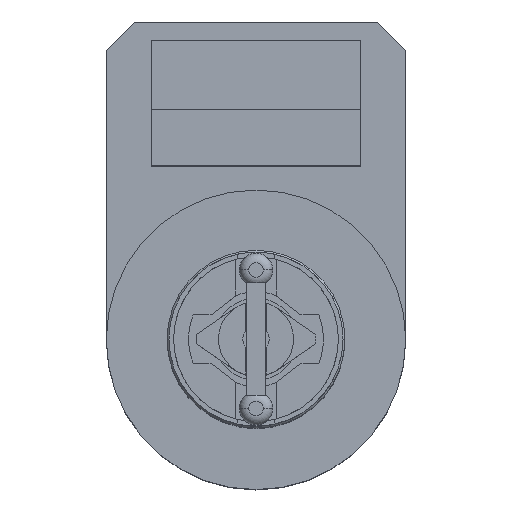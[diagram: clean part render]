
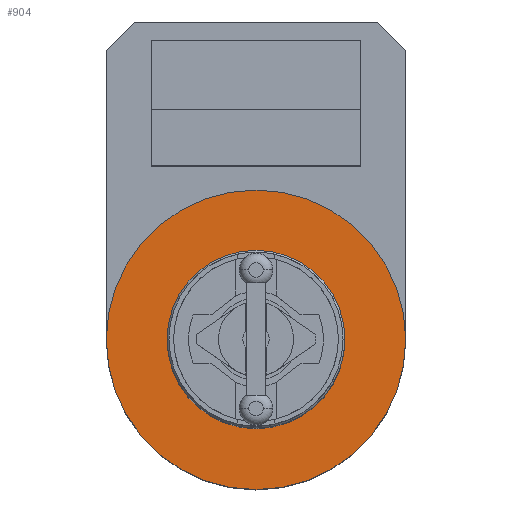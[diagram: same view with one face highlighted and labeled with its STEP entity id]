
A CAD part, top view. The second image highlights one B-rep face of the part: STEP entity #904.
In plain terms, the highlighted planar face has unit normal (0, 0, 1).
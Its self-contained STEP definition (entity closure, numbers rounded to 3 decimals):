
#16 = CARTESIAN_POINT ( 'NONE',  ( 0., 0., 10.9 ) ) ;
#287 = CARTESIAN_POINT ( 'NONE',  ( 0., 0., 10.9 ) ) ;
#370 = CARTESIAN_POINT ( 'NONE',  ( 0., 0., 10.9 ) ) ;
#432 = EDGE_CURVE ( 'NONE', #1455, #608, #2662, .T. ) ;
#521 = AXIS2_PLACEMENT_3D ( 'NONE', #1353, #1087, #1900 ) ;
#577 = DIRECTION ( 'NONE',  ( -1., 0., 0. ) ) ;
#608 = VERTEX_POINT ( 'NONE', #1431 ) ;
#904 = ADVANCED_FACE ( 'NONE', ( #2982, #1881 ), #2773, .F. ) ;
#997 = CARTESIAN_POINT ( 'NONE',  ( 0., 0., 10.9 ) ) ;
#1087 = DIRECTION ( 'NONE',  ( 0., 0., -1. ) ) ;
#1353 = CARTESIAN_POINT ( 'NONE',  ( 0., 8., 10.9 ) ) ;
#1360 = EDGE_CURVE ( 'NONE', #608, #1455, #1903, .T. ) ;
#1431 = CARTESIAN_POINT ( 'NONE',  ( 8., 0., 10.9 ) ) ;
#1455 = VERTEX_POINT ( 'NONE', #1929 ) ;
#1534 = EDGE_LOOP ( 'NONE', ( #3396, #2747 ) ) ;
#1579 = EDGE_CURVE ( 'NONE', #2012, #2140, #1907, .T. ) ;
#1611 = EDGE_CURVE ( 'NONE', #2140, #2012, #2136, .T. ) ;
#1788 = CARTESIAN_POINT ( 'NONE',  ( -4.75, 0., 10.9 ) ) ;
#1831 = EDGE_LOOP ( 'NONE', ( #2752, #2492 ) ) ;
#1881 = FACE_BOUND ( 'NONE', #1831, .T. ) ;
#1900 = DIRECTION ( 'NONE',  ( -1., 0., 0. ) ) ;
#1903 = CIRCLE ( 'NONE', #3197, 8. ) ;
#1907 = CIRCLE ( 'NONE', #2612, 4.75 ) ;
#1918 = DIRECTION ( 'NONE',  ( -1., 0., 0. ) ) ;
#1929 = CARTESIAN_POINT ( 'NONE',  ( -8., 0., 10.9 ) ) ;
#1972 = DIRECTION ( 'NONE',  ( -1., 0., 0. ) ) ;
#2012 = VERTEX_POINT ( 'NONE', #1788 ) ;
#2116 = DIRECTION ( 'NONE',  ( -1., 0., 0. ) ) ;
#2136 = CIRCLE ( 'NONE', #2258, 4.75 ) ;
#2140 = VERTEX_POINT ( 'NONE', #2713 ) ;
#2258 = AXIS2_PLACEMENT_3D ( 'NONE', #287, #3455, #1972 ) ;
#2492 = ORIENTED_EDGE ( 'NONE', *, *, #1611, .T. ) ;
#2551 = AXIS2_PLACEMENT_3D ( 'NONE', #370, #2710, #2116 ) ;
#2612 = AXIS2_PLACEMENT_3D ( 'NONE', #16, #3164, #577 ) ;
#2662 = CIRCLE ( 'NONE', #2551, 8. ) ;
#2710 = DIRECTION ( 'NONE',  ( 0., 0., -1. ) ) ;
#2713 = CARTESIAN_POINT ( 'NONE',  ( 4.75, 0., 10.9 ) ) ;
#2747 = ORIENTED_EDGE ( 'NONE', *, *, #1360, .F. ) ;
#2752 = ORIENTED_EDGE ( 'NONE', *, *, #1579, .T. ) ;
#2773 = PLANE ( 'NONE',  #521 ) ;
#2982 = FACE_OUTER_BOUND ( 'NONE', #1534, .T. ) ;
#3164 = DIRECTION ( 'NONE',  ( 0., 0., -1. ) ) ;
#3197 = AXIS2_PLACEMENT_3D ( 'NONE', #997, #3555, #1918 ) ;
#3396 = ORIENTED_EDGE ( 'NONE', *, *, #432, .F. ) ;
#3455 = DIRECTION ( 'NONE',  ( 0., 0., -1. ) ) ;
#3555 = DIRECTION ( 'NONE',  ( 0., 0., -1. ) ) ;
